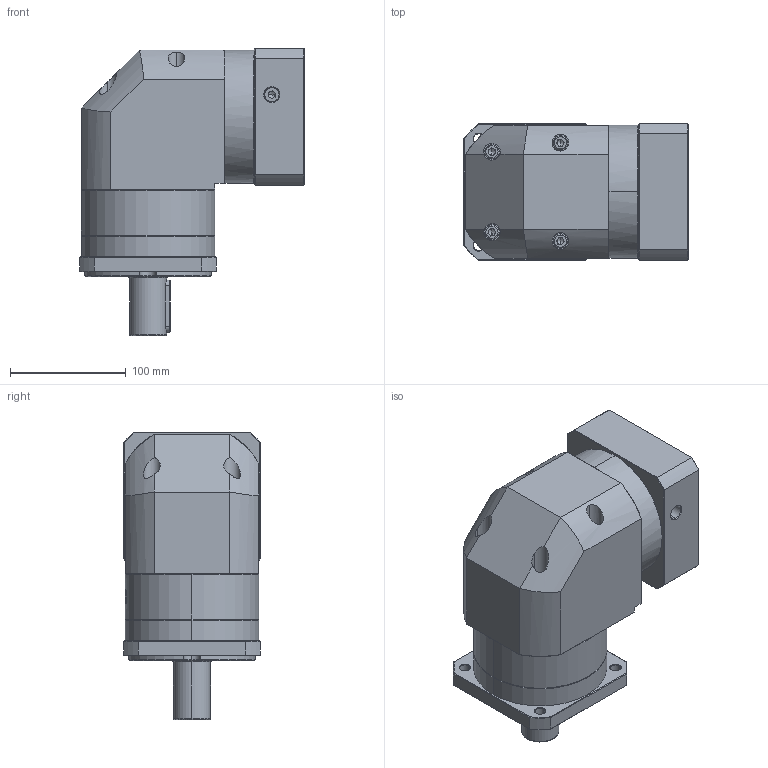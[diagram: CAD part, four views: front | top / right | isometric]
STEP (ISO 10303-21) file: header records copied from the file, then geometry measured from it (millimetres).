
FILE_DESCRIPTION (( 'STEP AP214' ), '1' );
FILE_NAME ('ZFR120A-D32-L1-P2-22-110-130-M8.step', '2023-08-27T08:07:04', ( '' ), ( '' ), 'SwSTEP 2.0', 'SolidWorks 2016', '' );
FILE_SCHEMA (( 'AUTOMOTIVE_DESIGN' ));
Length unit declared in the file: millimetre
Products named in the file (1): ZFR120A-D32-L1-P2-22-110-130-M8
Bounding box: 193.9 x 118 x 248 mm (x, y, z)
Volume: 2887563.1 mm3; surface area: 245580.2 mm2
Topology: 6 solids, 6 shells, 2266 faces, 5965 edges, 3804 vertices
Faces by surface type: plane 1061, cylinder 434, bspline 425, cone 338, torus 8
Entity records: 124347 total; most frequent: CARTESIAN_POINT 49029, ORIENTED_EDGE 11870, DIRECTION 8599, EDGE_CURVE 5935, VERTEX_POINT 3804, LINE 3159, VECTOR 3159, AXIS2_PLACEMENT_3D 2720
